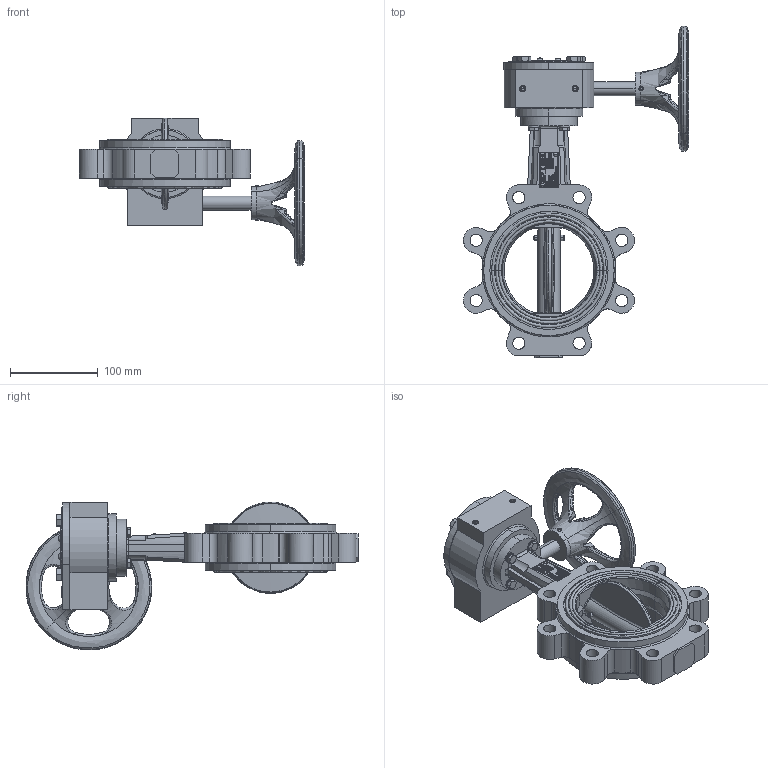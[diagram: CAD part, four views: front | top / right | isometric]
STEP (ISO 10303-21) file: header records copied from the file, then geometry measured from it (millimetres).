
FILE_DESCRIPTION (( 'STEP AP214' ), '1' );
FILE_NAME ('VPG464X-08XX0100.step', '2022-06-30T08:09:46', ( '' ), ( '' ), 'SwSTEP 2.0', 'SolidWorks 2020', '' );
FILE_SCHEMA (( 'AUTOMOTIVE_DESIGN' ));
Length unit declared in the file: millimetre
Products named in the file (1): VPG464X-08XX0100
Bounding box: 257.1 x 379.23 x 168.81 mm (x, y, z)
Surface area: 252958.5 mm2 (no closed solid volume)
Topology: 0 solids, 82 shells, 949 faces, 6011 edges, 5040 vertices
Faces by surface type: plane 471, bspline 200, cylinder 182, cone 92, torus 4
Entity records: 96975 total; most frequent: CARTESIAN_POINT 45825, ORIENTED_EDGE 7970, DIRECTION 6338, EDGE_CURVE 5996, VERTEX_POINT 5040, LINE 3594, VECTOR 3594, B_SPLINE_CURVE_WITH_KNOTS 1700
